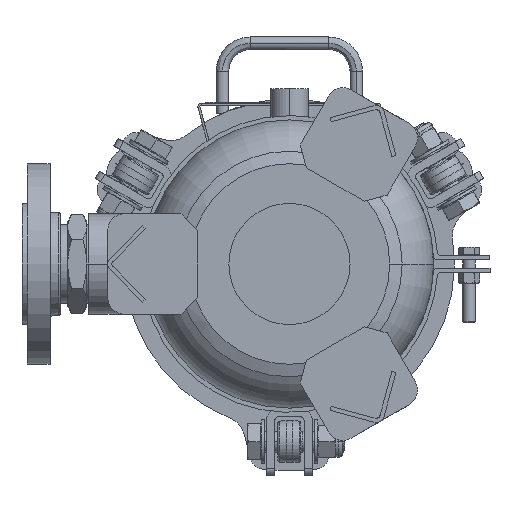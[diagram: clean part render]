
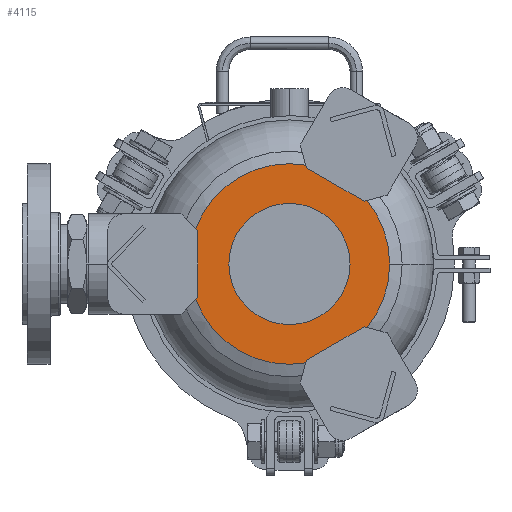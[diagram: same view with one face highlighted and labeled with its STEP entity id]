
A CAD part, front view. The second image highlights one B-rep face of the part: STEP entity #4115.
In plain terms, the highlighted planar face has unit normal (0, -1, 0).
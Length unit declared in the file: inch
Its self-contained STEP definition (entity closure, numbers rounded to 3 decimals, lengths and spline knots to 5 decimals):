
#659 = CARTESIAN_POINT ( 'NONE',  ( 0., -43.6585, 0. ) ) ;
#1298 = VERTEX_POINT ( 'NONE', #25474 ) ;
#2005 = PLANE ( 'NONE',  #15992 ) ;
#3773 = CIRCLE ( 'NONE', #16645, 1.8125 ) ;
#4115 = ADVANCED_FACE ( 'Defeatured_810', ( #14275, #14129 ), #2005, .T. ) ;
#5170 = AXIS2_PLACEMENT_3D ( 'NONE', #16508, #5313, #14556 ) ;
#5313 = DIRECTION ( 'NONE',  ( 0., -1., 0. ) ) ;
#6060 = CARTESIAN_POINT ( 'NONE',  ( 0., -43.6585, 0. ) ) ;
#7198 = DIRECTION ( 'NONE',  ( 0., -1., 0. ) ) ;
#9513 = AXIS2_PLACEMENT_3D ( 'NONE', #13416, #13001, #17323 ) ;
#9528 = VERTEX_POINT ( 'NONE', #10728 ) ;
#9840 = DIRECTION ( 'NONE',  ( 0., -1., 0. ) ) ;
#9861 = DIRECTION ( 'NONE',  ( 0., -1., 0. ) ) ;
#10241 = CARTESIAN_POINT ( 'NONE',  ( 0., -43.6585, 3. ) ) ;
#10728 = CARTESIAN_POINT ( 'NONE',  ( 0., -43.6585, 1.8125 ) ) ;
#13001 = DIRECTION ( 'NONE',  ( 0., -1., 0. ) ) ;
#13416 = CARTESIAN_POINT ( 'NONE',  ( 0., -43.6585, 0. ) ) ;
#13697 = VERTEX_POINT ( 'NONE', #10241 ) ;
#13875 = CARTESIAN_POINT ( 'NONE',  ( 0., -43.6585, 1.53125 ) ) ;
#14129 = FACE_OUTER_BOUND ( 'NONE', #21752, .T. ) ;
#14275 = FACE_BOUND ( 'NONE', #23832, .T. ) ;
#14556 = DIRECTION ( 'NONE',  ( 0., 0., 1. ) ) ;
#14925 = CIRCLE ( 'NONE', #5170, 3. ) ;
#15992 = AXIS2_PLACEMENT_3D ( 'NONE', #13875, #9861, #16863 ) ;
#16508 = CARTESIAN_POINT ( 'NONE',  ( 0., -43.6585, 0. ) ) ;
#16632 = VERTEX_POINT ( 'NONE', #25714 ) ;
#16645 = AXIS2_PLACEMENT_3D ( 'NONE', #659, #7198, #25707 ) ;
#16863 = DIRECTION ( 'NONE',  ( 0., 0., 1. ) ) ;
#17323 = DIRECTION ( 'NONE',  ( 0., 0., -1. ) ) ;
#19236 = CIRCLE ( 'NONE', #9513, 1.8125 ) ;
#19851 = EDGE_CURVE ( 'NONE', #16632, #13697, #14925, .T. ) ;
#21752 = EDGE_LOOP ( 'NONE', ( #23009, #25348 ) ) ;
#22526 = EDGE_CURVE ( 'NONE', #13697, #16632, #23951, .T. ) ;
#23009 = ORIENTED_EDGE ( 'NONE', *, *, #22526, .T. ) ;
#23068 = AXIS2_PLACEMENT_3D ( 'NONE', #6060, #9840, #27067 ) ;
#23645 = ORIENTED_EDGE ( 'NONE', *, *, #26277, .F. ) ;
#23832 = EDGE_LOOP ( 'NONE', ( #24142, #23645 ) ) ;
#23951 = CIRCLE ( 'NONE', #23068, 3. ) ;
#24142 = ORIENTED_EDGE ( 'NONE', *, *, #27473, .F. ) ;
#25348 = ORIENTED_EDGE ( 'NONE', *, *, #19851, .T. ) ;
#25474 = CARTESIAN_POINT ( 'NONE',  ( 0., -43.6585, -1.8125 ) ) ;
#25707 = DIRECTION ( 'NONE',  ( 0., 0., -1. ) ) ;
#25714 = CARTESIAN_POINT ( 'NONE',  ( 0., -43.6585, -3. ) ) ;
#26277 = EDGE_CURVE ( 'NONE', #9528, #1298, #19236, .T. ) ;
#27067 = DIRECTION ( 'NONE',  ( 0., 0., 1. ) ) ;
#27473 = EDGE_CURVE ( 'NONE', #1298, #9528, #3773, .T. ) ;
